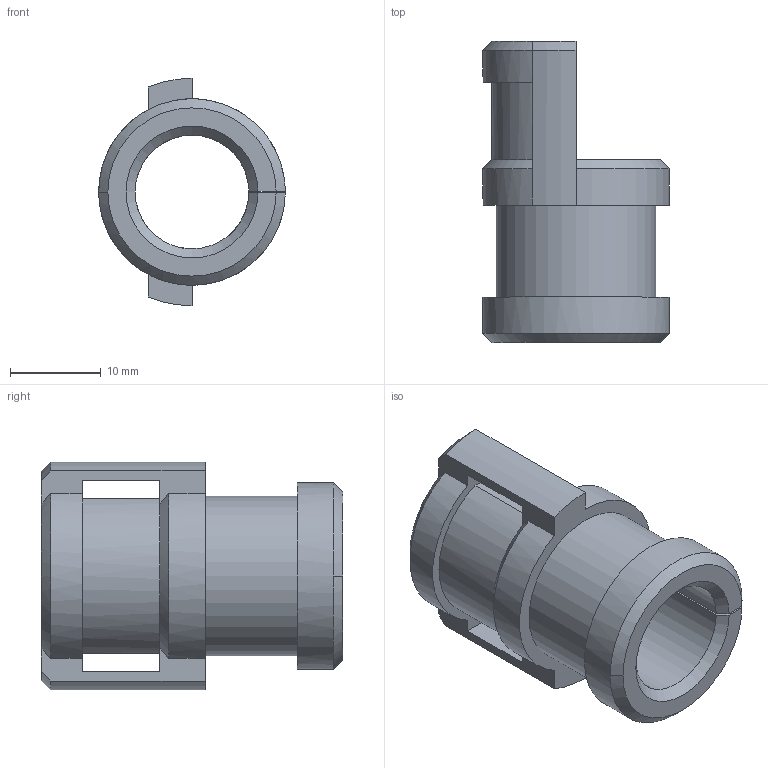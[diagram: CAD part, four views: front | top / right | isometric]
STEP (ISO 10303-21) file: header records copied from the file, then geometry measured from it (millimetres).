
FILE_DESCRIPTION (( 'STEP AP203' ), '1' );
FILE_NAME ('kdt-z11.STEP', '2023-03-03T07:55:20', ( '' ), ( '' ), 'SwSTEP 2.0', 'SolidWorks 2016', '' );
FILE_SCHEMA (( 'CONFIG_CONTROL_DESIGN' ));
Length unit declared in the file: millimetre
Products named in the file (1): kdt-z11
Bounding box: 20.5 x 33.1 x 25 mm (x, y, z)
Volume: 4542.1 mm3; surface area: 3716.1 mm2
Topology: 1 solids, 1 shells, 42 faces, 130 edges, 86 vertices
Faces by surface type: plane 17, cone 14, cylinder 11
Entity records: 1809 total; most frequent: CARTESIAN_POINT 602, ORIENTED_EDGE 260, DIRECTION 212, EDGE_CURVE 130, VERTEX_POINT 86, AXIS2_PLACEMENT_3D 72, VECTOR 68, LINE 68
